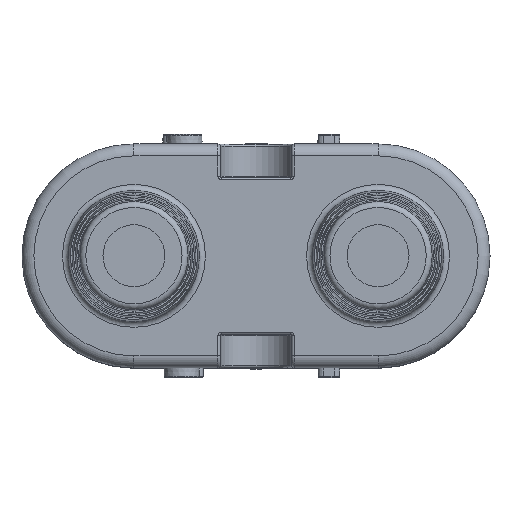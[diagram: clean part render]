
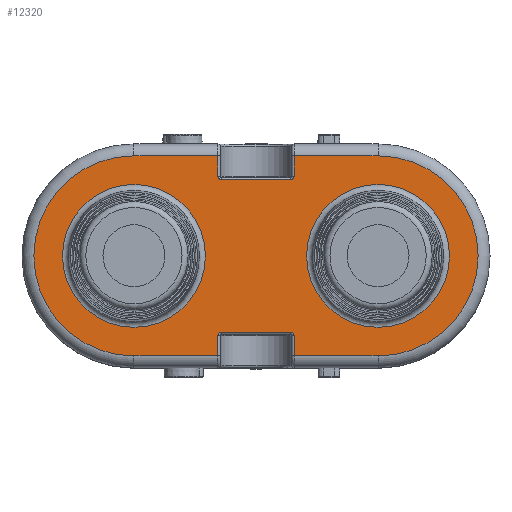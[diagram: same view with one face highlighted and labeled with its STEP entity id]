
A CAD part, top view. The second image highlights one B-rep face of the part: STEP entity #12320.
In plain terms, the highlighted planar face has unit normal (0, 0, 1).
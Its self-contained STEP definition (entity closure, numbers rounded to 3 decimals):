
#634=LINE('',#20845,#1246);
#636=LINE('',#20857,#1248);
#638=LINE('',#20869,#1250);
#650=LINE('',#20930,#1262);
#652=LINE('',#20942,#1264);
#658=LINE('',#20978,#1270);
#663=LINE('',#20999,#1275);
#664=LINE('',#21002,#1276);
#665=LINE('',#21004,#1277);
#666=LINE('',#21007,#1278);
#1246=VECTOR('',#16770,10.);
#1248=VECTOR('',#16784,10.);
#1250=VECTOR('',#16798,10.);
#1262=VECTOR('',#16876,10.);
#1264=VECTOR('',#16890,10.);
#1270=VECTOR('',#16932,10.);
#1275=VECTOR('',#16963,10.);
#1276=VECTOR('',#16966,10.);
#1277=VECTOR('',#16967,10.);
#1278=VECTOR('',#16970,10.);
#1679=PLANE('',#13705);
#1839=FACE_BOUND('',#3111,.T.);
#1840=FACE_BOUND('',#3112,.T.);
#2284=FACE_OUTER_BOUND('',#3110,.T.);
#3110=EDGE_LOOP('',(#9490,#9491,#9492,#9493,#9494,#9495,#9496,#9497,#9498,
#9499,#9500,#9501,#9502,#9503,#9504,#9505));
#3111=EDGE_LOOP('',(#9506));
#3112=EDGE_LOOP('',(#9507));
#4042=CIRCLE('',#13627,0.3);
#4046=CIRCLE('',#13633,0.3);
#4068=CIRCLE('',#13672,0.3);
#4083=CIRCLE('',#13695,0.3);
#4087=CIRCLE('',#13706,8.4);
#4088=CIRCLE('',#13707,8.4);
#4089=CIRCLE('',#13708,6.);
#4090=CIRCLE('',#13709,6.);
#5234=VERTEX_POINT('',#20836);
#5236=VERTEX_POINT('',#20842);
#5238=VERTEX_POINT('',#20848);
#5240=VERTEX_POINT('',#20854);
#5242=VERTEX_POINT('',#20860);
#5244=VERTEX_POINT('',#20866);
#5259=VERTEX_POINT('',#20926);
#5260=VERTEX_POINT('',#20928);
#5262=VERTEX_POINT('',#20933);
#5263=VERTEX_POINT('',#20938);
#5274=VERTEX_POINT('',#20969);
#5276=VERTEX_POINT('',#20975);
#5279=VERTEX_POINT('',#20998);
#5280=VERTEX_POINT('',#21000);
#5281=VERTEX_POINT('',#21003);
#5282=VERTEX_POINT('',#21005);
#5283=VERTEX_POINT('',#21008);
#5284=VERTEX_POINT('',#21010);
#6659=EDGE_CURVE('',#5236,#5234,#634,.T.);
#6662=EDGE_CURVE('',#5238,#5236,#4042,.T.);
#6665=EDGE_CURVE('',#5240,#5238,#636,.T.);
#6668=EDGE_CURVE('',#5242,#5240,#4046,.T.);
#6671=EDGE_CURVE('',#5244,#5242,#638,.T.);
#6701=EDGE_CURVE('',#5259,#5260,#650,.T.);
#6704=EDGE_CURVE('',#5262,#5259,#4068,.T.);
#6707=EDGE_CURVE('',#5263,#5262,#652,.T.);
#6725=EDGE_CURVE('',#5276,#5274,#658,.T.);
#6727=EDGE_CURVE('',#5260,#5276,#4083,.T.);
#6735=EDGE_CURVE('',#5274,#5279,#663,.T.);
#6736=EDGE_CURVE('',#5279,#5280,#4087,.T.);
#6737=EDGE_CURVE('',#5280,#5244,#664,.T.);
#6738=EDGE_CURVE('',#5234,#5281,#665,.T.);
#6739=EDGE_CURVE('',#5281,#5282,#4088,.T.);
#6740=EDGE_CURVE('',#5282,#5263,#666,.T.);
#6741=EDGE_CURVE('',#5283,#5283,#4089,.T.);
#6742=EDGE_CURVE('',#5284,#5284,#4090,.T.);
#9490=ORIENTED_EDGE('',*,*,#6707,.T.);
#9491=ORIENTED_EDGE('',*,*,#6704,.T.);
#9492=ORIENTED_EDGE('',*,*,#6701,.T.);
#9493=ORIENTED_EDGE('',*,*,#6727,.T.);
#9494=ORIENTED_EDGE('',*,*,#6725,.T.);
#9495=ORIENTED_EDGE('',*,*,#6735,.T.);
#9496=ORIENTED_EDGE('',*,*,#6736,.T.);
#9497=ORIENTED_EDGE('',*,*,#6737,.T.);
#9498=ORIENTED_EDGE('',*,*,#6671,.T.);
#9499=ORIENTED_EDGE('',*,*,#6668,.T.);
#9500=ORIENTED_EDGE('',*,*,#6665,.T.);
#9501=ORIENTED_EDGE('',*,*,#6662,.T.);
#9502=ORIENTED_EDGE('',*,*,#6659,.T.);
#9503=ORIENTED_EDGE('',*,*,#6738,.T.);
#9504=ORIENTED_EDGE('',*,*,#6739,.T.);
#9505=ORIENTED_EDGE('',*,*,#6740,.T.);
#9506=ORIENTED_EDGE('',*,*,#6741,.T.);
#9507=ORIENTED_EDGE('',*,*,#6742,.T.);
#12320=ADVANCED_FACE('',(#2284,#1839,#1840),#1679,.T.);
#13627=AXIS2_PLACEMENT_3D('',#20851,#16777,#16778);
#13633=AXIS2_PLACEMENT_3D('',#20863,#16791,#16792);
#13672=AXIS2_PLACEMENT_3D('',#20936,#16883,#16884);
#13695=AXIS2_PLACEMENT_3D('',#20981,#16937,#16938);
#13705=AXIS2_PLACEMENT_3D('',#20997,#16961,#16962);
#13706=AXIS2_PLACEMENT_3D('',#21001,#16964,#16965);
#13707=AXIS2_PLACEMENT_3D('',#21006,#16968,#16969);
#13708=AXIS2_PLACEMENT_3D('',#21009,#16971,#16972);
#13709=AXIS2_PLACEMENT_3D('',#21011,#16973,#16974);
#16770=DIRECTION('',(0.,-1.,0.));
#16777=DIRECTION('center_axis',(0.,0.,
-1.));
#16778=DIRECTION('ref_axis',(0.,1.,0.));
#16784=DIRECTION('',(1.,0.,0.));
#16791=DIRECTION('center_axis',(0.,0.,
-1.));
#16792=DIRECTION('ref_axis',(-1.,0.,0.));
#16798=DIRECTION('',(0.,1.,0.));
#16876=DIRECTION('',(-1.,0.,0.));
#16883=DIRECTION('center_axis',(0.,0.,
-1.));
#16884=DIRECTION('ref_axis',(1.,0.,0.));
#16890=DIRECTION('',(0.,-1.,0.));
#16932=DIRECTION('',(0.,1.,0.));
#16937=DIRECTION('center_axis',(0.,0.,
-1.));
#16938=DIRECTION('ref_axis',(0.,-1.,0.));
#16961=DIRECTION('center_axis',(0.,0.,
1.));
#16962=DIRECTION('ref_axis',(1.,0.,0.));
#16963=DIRECTION('',(-1.,0.,0.));
#16964=DIRECTION('center_axis',(0.,0.,
1.));
#16965=DIRECTION('ref_axis',(0.,1.,0.));
#16966=DIRECTION('',(1.,0.,0.));
#16967=DIRECTION('',(1.,0.,0.));
#16968=DIRECTION('center_axis',(0.,0.,
1.));
#16969=DIRECTION('ref_axis',(0.,-1.,0.));
#16970=DIRECTION('',(-1.,0.,0.));
#16971=DIRECTION('center_axis',(0.,0.,
-1.));
#16972=DIRECTION('ref_axis',(-1.,0.,0.));
#16973=DIRECTION('center_axis',(0.,0.,
-1.));
#16974=DIRECTION('ref_axis',(-1.,0.,0.));
#20836=CARTESIAN_POINT('',(91.536,75.249,15.681));
#20842=CARTESIAN_POINT('',(91.536,76.949,15.681));
#20845=CARTESIAN_POINT('',(91.536,76.949,15.681));
#20848=CARTESIAN_POINT('',(91.236,77.249,15.681));
#20851=CARTESIAN_POINT('Origin',(91.236,76.949,15.681));
#20854=CARTESIAN_POINT('',(85.436,77.249,15.681));
#20857=CARTESIAN_POINT('',(85.436,77.249,15.681));
#20860=CARTESIAN_POINT('',(85.136,76.949,15.681));
#20863=CARTESIAN_POINT('Origin',(85.436,76.949,15.681));
#20866=CARTESIAN_POINT('',(85.136,75.249,15.681));
#20869=CARTESIAN_POINT('',(85.136,75.249,15.681));
#20926=CARTESIAN_POINT('',(91.236,90.049,15.681));
#20928=CARTESIAN_POINT('',(85.436,90.049,15.681));
#20930=CARTESIAN_POINT('',(91.236,90.049,15.681));
#20933=CARTESIAN_POINT('',(91.536,90.349,15.681));
#20936=CARTESIAN_POINT('Origin',(91.236,90.349,15.681));
#20938=CARTESIAN_POINT('',(91.536,92.049,15.681));
#20942=CARTESIAN_POINT('',(91.536,92.049,15.681));
#20969=CARTESIAN_POINT('',(85.136,92.049,15.681));
#20975=CARTESIAN_POINT('',(85.136,90.349,15.681));
#20978=CARTESIAN_POINT('',(85.136,90.349,15.681));
#20981=CARTESIAN_POINT('Origin',(85.436,90.349,15.681));
#20997=CARTESIAN_POINT('Origin',(88.336,83.649,15.681));
#20998=CARTESIAN_POINT('',(78.086,92.049,15.681));
#20999=CARTESIAN_POINT('',(85.136,92.049,15.681));
#21000=CARTESIAN_POINT('',(78.086,75.249,15.681));
#21001=CARTESIAN_POINT('Origin',(78.086,83.649,15.681));
#21002=CARTESIAN_POINT('',(78.086,75.249,15.681));
#21003=CARTESIAN_POINT('',(98.586,75.249,15.681));
#21004=CARTESIAN_POINT('',(91.536,75.249,15.681));
#21005=CARTESIAN_POINT('',(98.586,92.049,15.681));
#21006=CARTESIAN_POINT('Origin',(98.586,83.649,15.681));
#21007=CARTESIAN_POINT('',(98.586,92.049,15.681));
#21008=CARTESIAN_POINT('',(92.586,83.649,15.681));
#21009=CARTESIAN_POINT('Origin',(98.586,83.649,15.681));
#21010=CARTESIAN_POINT('',(72.086,83.649,15.681));
#21011=CARTESIAN_POINT('Origin',(78.086,83.649,15.681));
